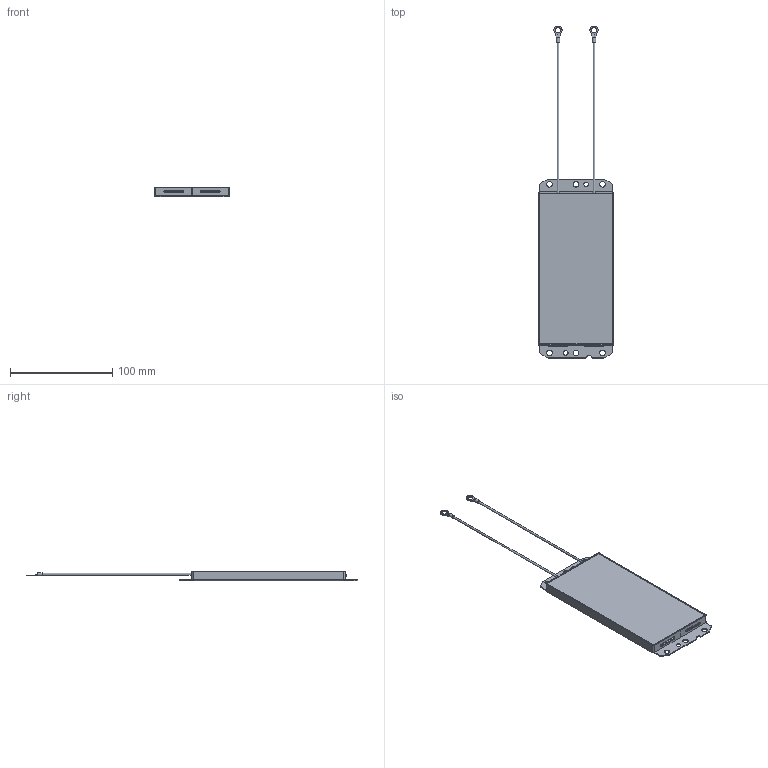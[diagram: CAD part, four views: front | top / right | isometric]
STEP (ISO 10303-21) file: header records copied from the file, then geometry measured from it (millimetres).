
FILE_DESCRIPTION(/* description */ ('STEP AP214'),/* implementation_level */ '2;1');
FILE_NAME(/* name */ '200W.step',/* time_stamp */ '2025-12-17T10:06:42+09:00',/* author */ (''),/* organization */ (''),/* preprocessor_version */ 'ST-DEVELOPER v20.1',/* originating_system */ 'Autodesk Translation Framework v14.21.0.0',/* authorisation */ '');
FILE_SCHEMA (('AUTOMOTIVE_DESIGN { 1 0 10303 214 3 1 1 }'));
Length unit declared in the file: millimetre
Products named in the file (1): assy
Bounding box: 74 x 325 x 9.5 mm (x, y, z)
Volume: 105665.5 mm3; surface area: 53880.6 mm2
Topology: 1 solids, 3 shells, 242 faces, 618 edges, 380 vertices
Faces by surface type: plane 115, cylinder 99, bspline 18, torus 10
Full cylindrical faces by diameter (mm): 1.8 x2, 1.9 x2, 3.4 x2, 4.5 x2, 5.3 x2, 5.4 x6
Entity records: 7710 total; most frequent: CARTESIAN_POINT 1541, DIRECTION 1320, ORIENTED_EDGE 1236, EDGE_CURVE 618, AXIS2_PLACEMENT_3D 477, VERTEX_POINT 380, LINE 366, VECTOR 366
